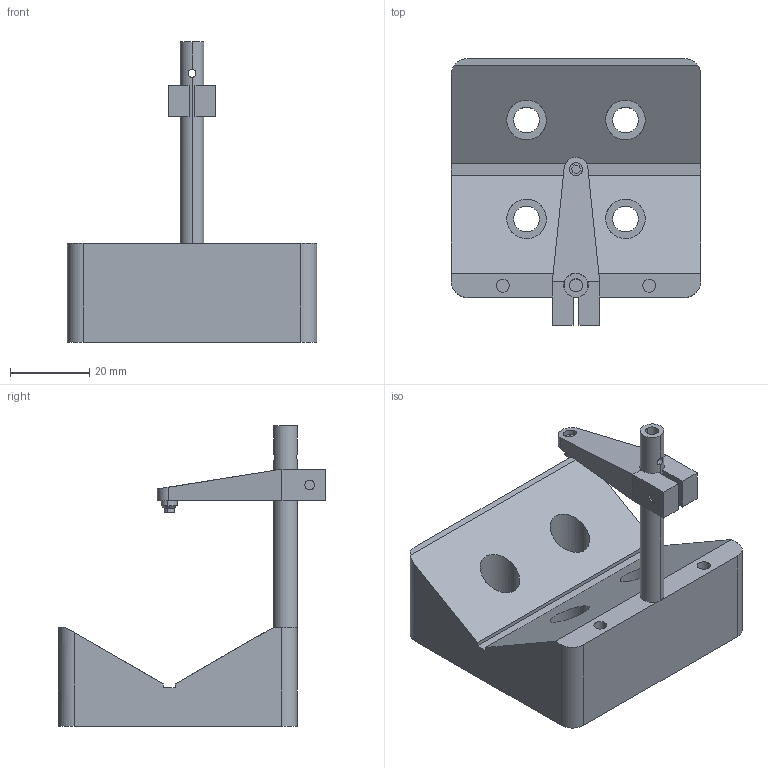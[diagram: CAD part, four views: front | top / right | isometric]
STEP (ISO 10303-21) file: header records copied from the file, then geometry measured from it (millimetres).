
FILE_DESCRIPTION (( 'STEP AP203' ), '1' );
FILE_NAME ('VÐÍ¼Ð³Ö×ù.STEP', '2022-09-05T05:20:21', ( '' ), ( '' ), 'SwSTEP 2.0', 'SolidWorks 2018', '' );
FILE_SCHEMA (( 'CONFIG_CONTROL_DESIGN' ));
Length unit declared in the file: millimetre
Products named in the file (1): V倰標厥釱
Bounding box: 63 x 67.5 x 76 mm (x, y, z)
Surface area: 18139.4 mm2 (no closed solid volume)
Topology: 0 solids, 8 shells, 102 faces, 290 edges, 189 vertices
Faces by surface type: cylinder 52, plane 44, cone 4, torus 2
Entity records: 3514 total; most frequent: CARTESIAN_POINT 758, DIRECTION 582, ORIENTED_EDGE 512, EDGE_CURVE 288, AXIS2_PLACEMENT_3D 213, VERTEX_POINT 189, LINE 156, VECTOR 156
